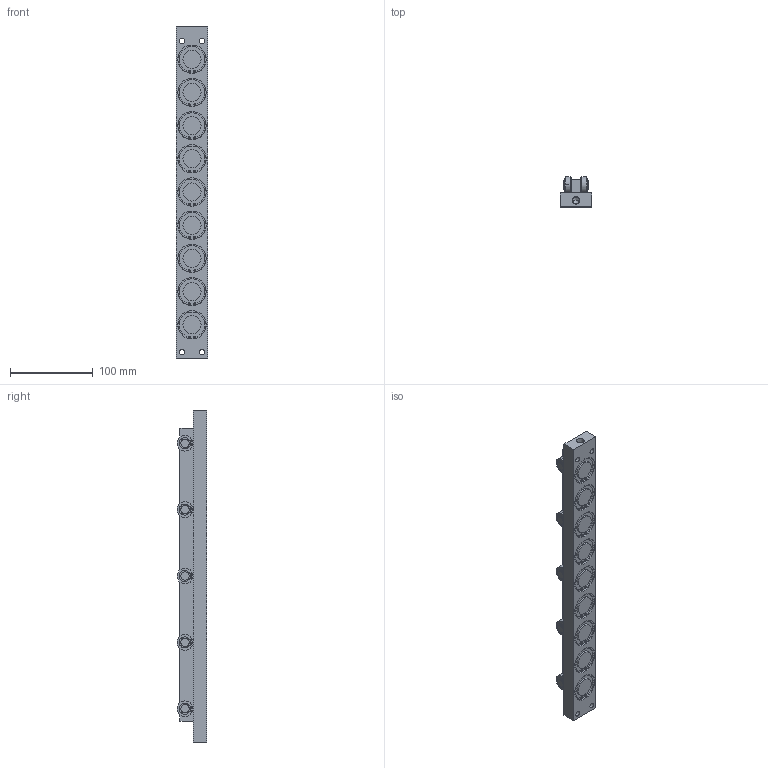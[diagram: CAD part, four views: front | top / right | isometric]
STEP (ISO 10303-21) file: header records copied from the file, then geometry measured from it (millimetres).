
FILE_DESCRIPTION (( 'STEP AP203' ), '1' );
FILE_NAME ('PVLR30S-5.STEP', '2015-12-22T06:21:49', ( '' ), ( '' ), 'SwSTEP 2.0', 'SolidWorks 2013', '' );
FILE_SCHEMA (( 'CONFIG_CONTROL_DESIGN' ));
Length unit declared in the file: millimetre
Products named in the file (1): PVLR30S-5
Bounding box: 38 x 36 x 400 mm (x, y, z)
Volume: 325236.7 mm3; surface area: 71404.4 mm2
Topology: 3 solids, 3 shells, 569 faces, 1407 edges, 925 vertices
Faces by surface type: cylinder 330, plane 227, cone 12
Entity records: 17214 total; most frequent: DIRECTION 3267, CARTESIAN_POINT 2896, ORIENTED_EDGE 2802, EDGE_CURVE 1401, AXIS2_PLACEMENT_3D 1296, VERTEX_POINT 925, CIRCLE 726, VECTOR 675
